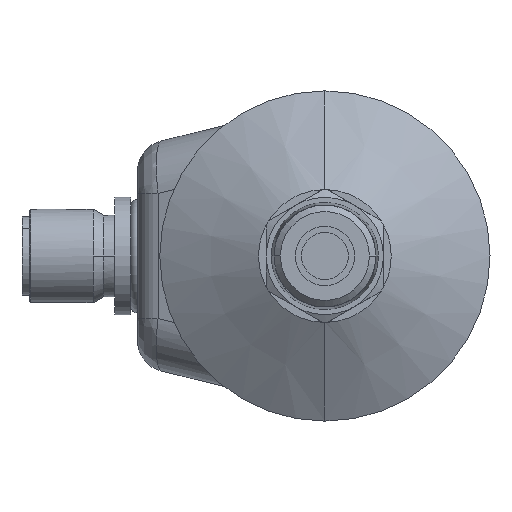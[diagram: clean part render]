
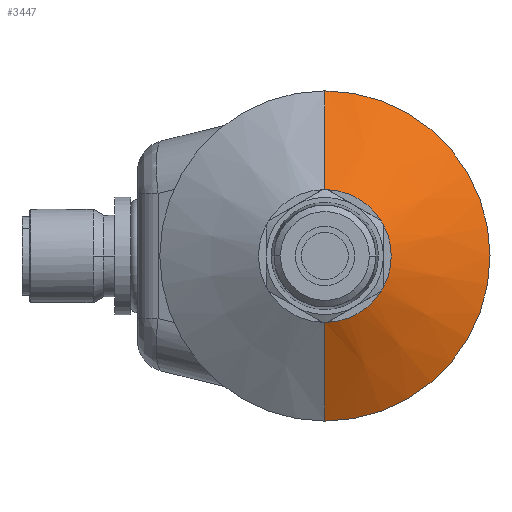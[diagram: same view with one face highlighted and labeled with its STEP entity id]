
A CAD part, front view. The second image highlights one B-rep face of the part: STEP entity #3447.
In plain terms, the highlighted conical face has half-angle 60 degrees and reference radius 14.825 mm.
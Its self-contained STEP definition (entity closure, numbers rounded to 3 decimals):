
#150=CARTESIAN_POINT('',(0.,-31.303,0.));
#151=DIRECTION('',(0.,1.,0.));
#152=DIRECTION('',(0.,0.,1.));
#153=AXIS2_PLACEMENT_3D('',#150,#151,#152);
#282=CARTESIAN_POINT('',(0.,-31.303,0.));
#283=DIRECTION('',(0.,1.,0.));
#284=DIRECTION('',(0.882,0.,-0.471));
#285=AXIS2_PLACEMENT_3D('',#282,#283,#284);
#320=CARTESIAN_POINT('',(0.,-31.303,0.));
#321=DIRECTION('',(0.,1.,0.));
#322=DIRECTION('',(0.849,0.,0.529));
#323=AXIS2_PLACEMENT_3D('',#320,#321,#322);
#325=CARTESIAN_POINT('',(0.,-31.303,0.));
#326=DIRECTION('',(0.,1.,0.));
#327=DIRECTION('',(0.034,0.,0.999));
#328=AXIS2_PLACEMENT_3D('',#325,#326,#327);
#334=CARTESIAN_POINT('',(0.,-24.,0.));
#335=DIRECTION('',(0.,1.,0.));
#336=DIRECTION('',(0.,0.,1.));
#337=AXIS2_PLACEMENT_3D('',#334,#335,#336);
#344=DIRECTION('',(0.,0.5,-0.866));
#345=VECTOR('',#344,14.607);
#346=CARTESIAN_POINT('',(0.,-31.303,-8.5));
#347=LINE('',#346,#345);
#353=DIRECTION('',(0.,-0.5,-0.866));
#354=VECTOR('',#353,14.607);
#355=CARTESIAN_POINT('',(0.,-24.,21.15));
#356=LINE('',#355,#354);
#395=CARTESIAN_POINT('',(0.,-31.303,0.));
#396=DIRECTION('',(0.,1.,0.));
#397=DIRECTION('',(0.034,0.,-0.999));
#398=AXIS2_PLACEMENT_3D('',#395,#396,#397);
#2460=CARTESIAN_POINT('',(0.,-31.303,0.));
#2461=DIRECTION('',(0.,1.,0.));
#2462=DIRECTION('',(0.849,0.,-0.529));
#2463=AXIS2_PLACEMENT_3D('',#2460,#2461,#2462);
#2469=CARTESIAN_POINT('',(0.,-31.303,0.));
#2470=DIRECTION('',(0.,1.,0.));
#2471=DIRECTION('',(0.882,0.,0.471));
#2472=AXIS2_PLACEMENT_3D('',#2469,#2470,#2471);
#2505=CARTESIAN_POINT('',(0.,-24.,21.15));
#2506=CARTESIAN_POINT('',(0.,-24.,-21.15));
#2507=VERTEX_POINT('',#2505);
#2508=VERTEX_POINT('',#2506);
#2509=CARTESIAN_POINT('',(0.286,-31.303,
8.495));
#2510=CARTESIAN_POINT('',(7.214,-31.303,4.495));
#2511=VERTEX_POINT('',#2509);
#2512=VERTEX_POINT('',#2510);
#2519=CARTESIAN_POINT('',(7.5,-31.303,4.));
#2520=VERTEX_POINT('',#2519);
#2522=CARTESIAN_POINT('',(7.5,-31.303,
-4.));
#2523=VERTEX_POINT('',#2522);
#2528=CARTESIAN_POINT('',(7.214,-31.303,
-4.495));
#2529=VERTEX_POINT('',#2528);
#2532=CARTESIAN_POINT('',(0.286,-31.303,
-8.495));
#2534=VERTEX_POINT('',#2532);
#2557=CARTESIAN_POINT('',(0.,-31.303,8.5));
#2559=VERTEX_POINT('',#2557);
#2577=CARTESIAN_POINT('',(0.,-31.303,-8.5));
#2578=VERTEX_POINT('',#2577);
#3424=CARTESIAN_POINT('',(0.,-27.652,0.));
#3425=DIRECTION('',(0.,1.,0.));
#3426=DIRECTION('',(0.,0.,1.));
#3427=AXIS2_PLACEMENT_3D('',#3424,#3425,#3426);
#3428=CONICAL_SURFACE('',#3427,14.825,60.);
#3429=ORIENTED_EDGE('',*,*,#3418,.F.);
#3430=ORIENTED_EDGE('',*,*,#3182,.F.);
#3432=ORIENTED_EDGE('',*,*,#3431,.F.);
#3434=ORIENTED_EDGE('',*,*,#3433,.T.);
#3436=ORIENTED_EDGE('',*,*,#3435,.F.);
#3438=ORIENTED_EDGE('',*,*,#3437,.F.);
#3440=ORIENTED_EDGE('',*,*,#3439,.F.);
#3441=ORIENTED_EDGE('',*,*,#3349,.F.);
#3443=ORIENTED_EDGE('',*,*,#3442,.F.);
#3444=ORIENTED_EDGE('',*,*,#3393,.F.);
#3445=EDGE_LOOP('',(#3429,#3430,#3432,#3434,#3436,#3438,#3440,#3441,#3443,
#3444));
#3446=FACE_OUTER_BOUND('',#3445,.F.);
#3447=ADVANCED_FACE('',(#3446),#3428,.T.);
#154=CIRCLE('',#153,8.5);
#286=CIRCLE('',#285,8.5);
#324=CIRCLE('',#323,8.5);
#329=CIRCLE('',#328,8.5);
#338=CIRCLE('',#337,21.15);
#399=CIRCLE('',#398,8.5);
#2464=CIRCLE('',#2463,8.5);
#2473=CIRCLE('',#2472,8.5);
#3182=EDGE_CURVE('',#2559,#2511,#154,.T.);
#3349=EDGE_CURVE('',#2523,#2529,#286,.T.);
#3393=EDGE_CURVE('',#2512,#2520,#324,.T.);
#3418=EDGE_CURVE('',#2511,#2512,#329,.T.);
#3431=EDGE_CURVE('',#2507,#2559,#356,.T.);
#3433=EDGE_CURVE('',#2507,#2508,#338,.T.);
#3435=EDGE_CURVE('',#2578,#2508,#347,.T.);
#3437=EDGE_CURVE('',#2534,#2578,#399,.T.);
#3439=EDGE_CURVE('',#2529,#2534,#2464,.T.);
#3442=EDGE_CURVE('',#2520,#2523,#2473,.T.);
